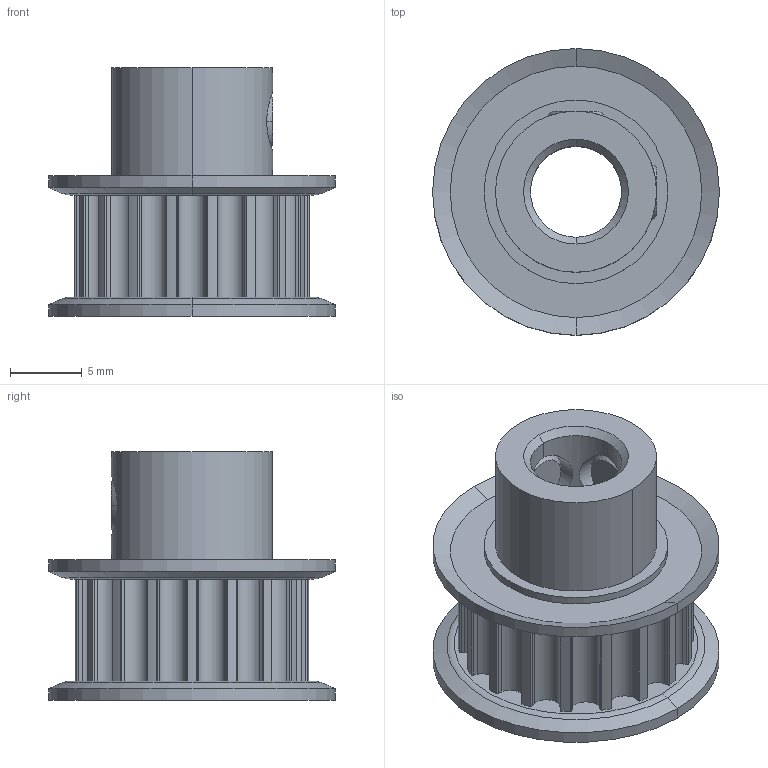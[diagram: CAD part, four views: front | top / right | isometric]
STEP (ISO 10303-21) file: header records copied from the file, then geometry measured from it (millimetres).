
FILE_DESCRIPTION((''),'2;1');
FILE_NAME('1','2024-10-16T23:12:00',('Administrator'),(''),'CREO PARAMETRIC BY PTC INC, 2020184','CREO PARAMETRIC BY PTC INC, 2020184','');
FILE_SCHEMA(('AUTOMOTIVE_DESIGN { 1 0 10303 214 1 1 1 1 }'));
Length unit declared in the file: inch
Products named in the file (1): 1
Bounding box: 19.99 x 19.99 x 17.34 mm (x, y, z)
Volume: 2088.8 mm3; surface area: 2187.7 mm2
Topology: 1 solids, 1 shells, 177 faces, 487 edges, 326 vertices
Faces by surface type: cylinder 128, plane 25, cone 20, torus 4
Entity records: 6413 total; most frequent: CARTESIAN_POINT 1433, DIRECTION 1121, ORIENTED_EDGE 964, EDGE_CURVE 482, AXIS2_PLACEMENT_3D 464, VERTEX_POINT 316, CIRCLE 286, VECTOR 193
